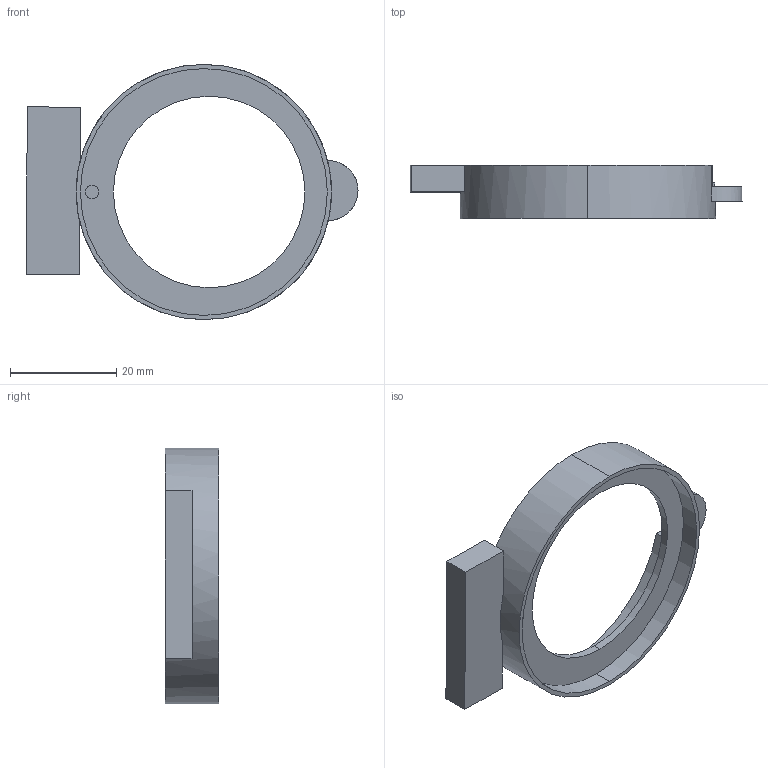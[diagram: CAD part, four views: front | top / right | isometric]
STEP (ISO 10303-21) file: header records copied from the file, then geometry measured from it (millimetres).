
FILE_DESCRIPTION(('Open CASCADE Model'),'2;1');
FILE_NAME('contact-gel-mold-march-revision.step','2026-11-14T14:29:30',( 'Author'),('Open CASCADE'),'Open CASCADE STEP processor 8.0', 'Open CASCADE 8.0','Unknown');
FILE_SCHEMA(('AP242_MANAGED_MODEL_BASED_3D_ENGINEERING_MIM_LF {1 0 10303 442 1 1 4 }' ));
Length unit declared in the file: millimetre
Products named in the file (1): Contact Gel Mold March Revision
Bounding box: 62.4 x 10 x 48 mm (x, y, z)
Volume: 3246.8 mm3; surface area: 5632.9 mm2
Topology: 1 solids, 1 shells, 46 faces, 118 edges, 77 vertices
Faces by surface type: plane 29, cylinder 17
Entity records: 3089 total; most frequent: CARTESIAN_POINT 698, DIRECTION 459, LINE 262, VECTOR 262, ORIENTED_EDGE 236, PCURVE 236, DEFINITIONAL_REPRESENTATION 236, EDGE_CURVE 118
